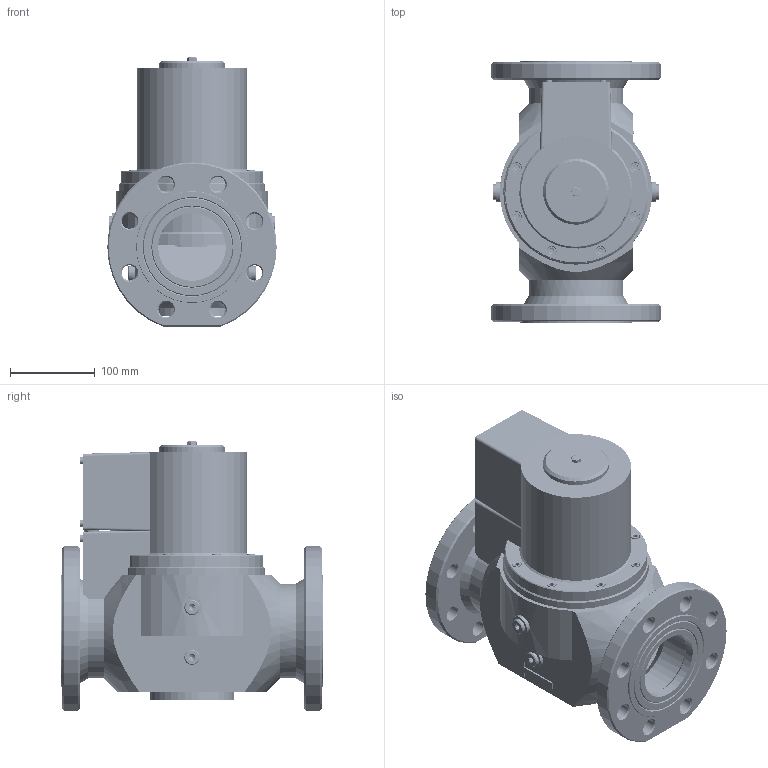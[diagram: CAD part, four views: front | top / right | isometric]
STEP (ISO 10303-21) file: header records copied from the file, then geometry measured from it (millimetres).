
FILE_DESCRIPTION( ( 'Unknown' ), '1' );
FILE_NAME( 'D:/Wyroby/Widoki gabarytowe/Zawory ZEF/ZEF_80k/ZEF_80k.stp', 'Unknown', ( 'Unknown' ), ( 'Unknown' ), 'XStep 1.0', 'Unknown', ' ' );
FILE_SCHEMA( ( 'CONFIG_CONTROL_DESIGN' ) );
Length unit declared in the file: millimetre
Products named in the file (63): Wa_091_01_02; Wa_080_01_07; Wa_112_01_03z_korkami; Assem1; Wa_080_01_00; Wa_091_01_10; Wa_091_01_10bez_ko³ka; Ko³ek 6x50; Wa_091_01_03got.; Wa_031_01_05_001got; Wa_091_01_02_001got.; Wa_091_01_02_002got.; Wa_112_01_03b.g._z.k.; Wa_080_01_01_001gotowe; Wa_080_01_07_001zaci從i黎y; Wa_080_01_02_003zaci從i黎a; Wa_080_01_02_002; Wa_080_01_02_005zaci從i黎a; Wa_080_01_02_006; W-008 wkrêt m4x12; Wa_091_01_09_002; Wa_091_01_09_003; Oring20x2zp³aszczony1,5; Wa_091_01_04_009; Wa_091_01_04_008; Wa_091_01_09_004; Wa_091_01_09_005; Wa_091_01_04_010; Wa_031_01_00_007; A_018podkladka_p³aska_pow_4; W_007M4x10walcowy; Wa_080_01_00_001; Wa_031_01_00_012; Wa_031_01_00_010; T-026; K-006got.; Œ-027ImbusM6x18; Wa_091_01_00_005; Œ-006m6x12szeœc.; Wa_091_01_00_002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
Bounding box: 200 x 310 x 318 mm (x, y, z)
Volume: 17313526.1 mm3; surface area: 3246111.8 mm2
Topology: 206 solids, 206 shells, 3367 faces, 7494 edges, 4865 vertices
Faces by surface type: plane 1476, cylinder 1038, cone 756, torus 62, bspline 30, sphere 5
Full cylindrical faces by diameter (mm): 1.5 x5, 2 x5, 2.1 x8, 2.5 x18, 3.242 x37, 4 x40, 4.1 x30, 4.2 x32, 4.3 x4, 4.5 x32, 4.917 x36, 5 x12, 6 x37, 6.2 x12, 6.5 x35, 6.6 x24, 7 x36, 8 x8, 10 x32, 11 x24, 11.445 x16, 12 x4, 13 x12, 13.8 x12, 14 x4, 17 x4, 18 x88, 18.376 x4, 18.5 x5, 20 x13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
Entity records: 30016 total; most frequent: CARTESIAN_POINT 9087, DIRECTION 3956, ORIENTED_EDGE 2744, AXIS2_PLACEMENT_3D 1771, EDGE_LOOP 1687, EDGE_CURVE 1372, FACE_OUTER_BOUND 1198, VERTEX_POINT 1152
